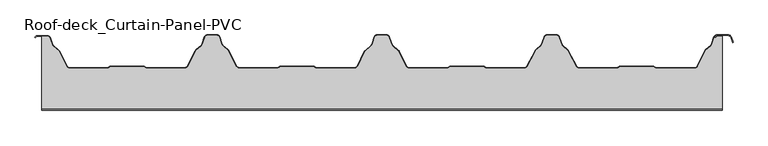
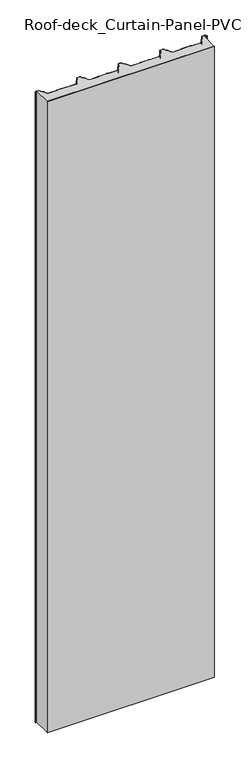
"""IFC4 building model written with IfcOpenShell, lengths in millimetres: plate geometry, Roof-deck_Curtain-Panel-PVC : ACH_Roof deck_MW_60 mm."""

from ifc_helpers import new_model, si_unit, point, frame_2d, origin, origin_with_axes, place, context, project, spatial, polyline, circle_curve, trimmed, segment, composite_curve, outline, extrude, source, transform, mapped, element, save


def roof_deck_curtain_panel_pvc_c78e96fc(model_context):
    return source(origin(), model_context, "Body", "SweptSolid", [
        extrude(outline(composite_curve([segment(polyline([(-349.0135941, -47.2718753), (-348.3934384, -47.892031)]), True, "CONTINUOUS"), segment(trimmed(circle_curve(frame_2d((-346.2014073, -45.7)), 3.1), [point((-348.3934384, -47.892031))], [point((-346.2014073, -48.8))], True, "CARTESIAN"), True, "CONTINUOUS"), segment(polyline([(-346.2014073, -48.8), (-289.4061861, -48.8)]), True, "CONTINUOUS"), segment(trimmed(circle_curve(frame_2d((-289.4061861, -44.5)), 4.3), [point((-289.4061861, -48.8))], [point((-285.5884085, -46.4785284))], True, "CARTESIAN"), True, "CONTINUOUS"), segment(polyline([(-285.5884085, -46.4785284), (-273.6825876, -23.505001)]), True, "CONTINUOUS"), segment(trimmed(circle_curve(frame_2d((-271.1078074, -24.8393573)), 2.9), [point((-273.6825876, -23.505001))], [point((-273.017236, -22.6566795))], False, "CARTESIAN"), True, "CONTINUOUS"), segment(polyline([(-273.017236, -22.6566795), (-265.2497907, -15.8616403)]), True, "CONTINUOUS"), segment(trimmed(circle_curve(frame_2d((-267.290904, -13.5284329)), 3.1), [point((-265.2497907, -15.8616403))], [point((-264.3739053, -14.5777749))], True, "CARTESIAN"), True, "CONTINUOUS"), segment(polyline([(-264.3739053, -14.5777749), (-260.2266586, -3.0491088)]), True, "CONTINUOUS"), segment(trimmed(circle_curve(frame_2d((-257.0273697, -4.2)), 3.4), [point((-260.2266586, -3.0491088))], [point((-257.0273697, -0.8))], False, "CARTESIAN"), True, "CONTINUOUS"), segment(polyline([(-257.0273697, -0.8), (-242.6920972, -0.8)]), True, "CONTINUOUS"), segment(trimmed(circle_curve(frame_2d((-242.6920972, -4.2)), 3.4), [point((-242.6920972, -0.8))], [point((-239.4928083, -3.0491088))], False, "CARTESIAN"), True, "CONTINUOUS"), segment(polyline([(-239.4928083, -3.0491088), (-235.3455616, -14.5777749)]), True, "CONTINUOUS"), segment(trimmed(circle_curve(frame_2d((-232.4285629, -13.5284329)), 3.1), [point((-235.3455616, -14.5777749))], [point((-234.4696761, -15.8616403))], True, "CARTESIAN"), True, "CONTINUOUS"), segment(polyline([(-234.4696761, -15.8616403), (-226.7022309, -22.6566795)]), True, "CONTINUOUS"), segment(trimmed(circle_curve(frame_2d((-228.6116595, -24.8393573)), 2.9), [point((-226.7022309, -22.6566795))], [point((-226.0368792, -23.505001))], False, "CARTESIAN"), True, "CONTINUOUS"), segment(polyline([(-226.0368792, -23.505001), (-214.1310583, -46.4785284)]), True, "CONTINUOUS"), segment(trimmed(circle_curve(frame_2d((-210.3132808, -44.5)), 4.3), [point((-214.1310583, -46.4785284))], [point((-210.3132808, -48.8))], True, "CARTESIAN"), True, "CONTINUOUS"), segment(polyline([(-210.3132808, -48.8), (-153.5333867, -48.8)]), True, "CONTINUOUS"), segment(trimmed(circle_curve(frame_2d((-153.5333867, -45.7)), 3.1), [point((-153.5333867, -48.8))], [point((-151.3413557, -47.892031))], True, "CARTESIAN"), True, "CONTINUOUS"), segment(polyline([(-151.3413557, -47.892031), (-150.7212, -47.2718753)]), True, "CONTINUOUS"), segment(trimmed(circle_curve(frame_2d((-149.0481053, -50.0020238)), 3.2020238), [point((-150.7212, -47.2718753))], [point((-149.0481053, -46.8))], False, "CARTESIAN"), True, "CONTINUOUS"), segment(polyline([(-149.0481053, -46.8), (-101.2020159, -46.8)]), True, "CONTINUOUS"), segment(trimmed(circle_curve(frame_2d((-101.2020159, -50.0020238)), 3.2020238), [point((-101.2020159, -46.8))], [point((-99.5289212, -47.2718753))], False, "CARTESIAN"), True, "CONTINUOUS"), segment(polyline([(-99.5289212, -47.2718753), (-98.9087655, -47.892031)]), True, "CONTINUOUS"), segment(trimmed(circle_curve(frame_2d((-96.7167345, -45.7)), 3.1), [point((-98.9087655, -47.892031))], [point((-96.7167345, -48.8))], True, "CARTESIAN"), True, "CONTINUOUS"), segment(polyline([(-96.7167345, -48.8), (-39.9215133, -48.8)]), True, "CONTINUOUS"), segment(trimmed(circle_curve(frame_2d((-39.9215133, -44.5)), 4.3), [point((-39.9215133, -48.8))], [point((-36.0707148, -46.4134657))], True, "CARTESIAN"), True, "CONTINUOUS"), segment(polyline([(-36.0707148, -46.4134657), (-25.2060392, -24.5485969)]), True, "CONTINUOUS"), segment(trimmed(circle_curve(frame_2d((-22.6089891, -25.8390738)), 2.9), [point((-25.2060392, -24.5485969))], [point((-24.5354625, -23.6714252))], False, "CARTESIAN"), True, "CONTINUOUS"), segment(polyline([(-24.5354625, -23.6714252), (-15.7323582, -15.8477646)]), True, "CONTINUOUS"), segment(trimmed(circle_curve(frame_2d((-17.7916919, -13.530623)), 3.1), [point((-15.7323582, -15.8477646))], [point((-14.8746932, -14.579965))], True, "CARTESIAN"), True, "CONTINUOUS"), segment(polyline([(-14.8746932, -14.579965), (-10.7266586, -3.0491088)]), True, "CONTINUOUS"), segment(trimmed(circle_curve(frame_2d((-7.5273697, -4.2)), 3.4), [point((-10.7266586, -3.0491088))], [point((-7.5273697, -0.8))], False, "CARTESIAN"), True, "CONTINUOUS"), segment(polyline([(-7.5273697, -0.8), (6.8079028, -0.8)]), True, "CONTINUOUS"), segment(trimmed(circle_curve(frame_2d((6.8079028, -4.2)), 3.4), [point((6.8079028, -0.8))], [point((10.0071917, -3.0491088))], False, "CARTESIAN"), True, "CONTINUOUS"), segment(polyline([(10.0071917, -3.0491088), (14.1552263, -14.579965)]), True, "CONTINUOUS"), segment(trimmed(circle_curve(frame_2d((17.072225, -13.530623)), 3.1), [point((14.1552263, -14.579965))], [point((15.0128913, -15.8477646))], True, "CARTESIAN"), True, "CONTINUOUS"), segment(polyline([(15.0128913, -15.8477646), (23.8159956, -23.6714252)]), True, "CONTINUOUS"), segment(trimmed(circle_curve(frame_2d((21.8895222, -25.8390738)), 2.9), [point((23.8159956, -23.6714252))], [point((24.4865724, -24.5485969))], False, "CARTESIAN"), True, "CONTINUOUS"), segment(polyline([(24.4865724, -24.5485969), (35.3512479, -46.4134657)]), True, "CONTINUOUS"), segment(trimmed(circle_curve(frame_2d((39.2020464, -44.5)), 4.3), [point((35.3512479, -46.4134657))], [point((39.2020464, -48.8))], True, "CARTESIAN"), True, "CONTINUOUS"), segment(polyline([(39.2020464, -48.8), (95.9819404, -48.8)]), True, "CONTINUOUS"), segment(trimmed(circle_curve(frame_2d((95.9819404, -45.7)), 3.1), [point((95.9819404, -48.8))], [point((98.1739715, -47.892031))], True, "CARTESIAN"), True, "CONTINUOUS"), segment(polyline([(98.1739715, -47.892031), (98.7941272, -47.2718753)]), True, "CONTINUOUS"), segment(trimmed(circle_curve(frame_2d((100.4672218, -50.0020238)), 3.2020238), [point((98.7941272, -47.2718753))], [point((100.4672218, -46.8))], False, "CARTESIAN"), True, "CONTINUOUS"), segment(polyline([(100.4672218, -46.8), (148.3133113, -46.8)]), True, "CONTINUOUS"), segment(trimmed(circle_curve(frame_2d((148.3133113, -50.0020238)), 3.2020238), [point((148.3133113, -46.8))], [point((149.9864059, -47.2718753))], False, "CARTESIAN"), True, "CONTINUOUS"), segment(polyline([(149.9864059, -47.2718753), (150.6065616, -47.892031)]), True, "CONTINUOUS"), segment(trimmed(circle_curve(frame_2d((152.7985927, -45.7)), 3.1), [point((150.6065616, -47.892031))], [point((152.7985927, -48.8))], True, "CARTESIAN"), True, "CONTINUOUS"), segment(polyline([(152.7985927, -48.8), (209.5938139, -48.8)]), True, "CONTINUOUS"), segment(trimmed(circle_curve(frame_2d((209.5938139, -44.5)), 4.3), [point((209.5938139, -48.8))], [point((213.4115915, -46.4785284))], True, "CARTESIAN"), True, "CONTINUOUS"), segment(polyline([(213.4115915, -46.4785284), (225.3174124, -23.505001)]), True, "CONTINUOUS"), segment(trimmed(circle_curve(frame_2d((227.8921926, -24.8393573)), 2.9), [point((225.3174124, -23.505001))], [point((225.982764, -22.6566795))], False, "CARTESIAN"), True, "CONTINUOUS"), segment(polyline([(225.982764, -22.6566795), (233.7502093, -15.8616403)]), True, "CONTINUOUS"), segment(trimmed(circle_curve(frame_2d((231.709096, -13.5284329)), 3.1), [point((233.7502093, -15.8616403))], [point((234.6260947, -14.5777749))], True, "CARTESIAN"), True, "CONTINUOUS"), segment(polyline([(234.6260947, -14.5777749), (238.7733414, -3.0491088)]), True, "CONTINUOUS"), segment(trimmed(circle_curve(frame_2d((241.9726303, -4.2)), 3.4), [point((238.7733414, -3.0491088))], [point((241.9726303, -0.8))], False, "CARTESIAN"), True, "CONTINUOUS"), segment(polyline([(241.9726303, -0.8), (256.3079028, -0.8)]), True, "CONTINUOUS"), segment(trimmed(circle_curve(frame_2d((256.3079028, -4.2)), 3.4), [point((256.3079028, -0.8))], [point((259.5071917, -3.0491088))], False, "CARTESIAN"), True, "CONTINUOUS"), segment(polyline([(259.5071917, -3.0491088), (263.6544384, -14.5777749)]), True, "CONTINUOUS"), segment(trimmed(circle_curve(frame_2d((266.5714371, -13.5284329)), 3.1), [point((263.6544384, -14.5777749))], [point((264.5303239, -15.8616403))], True, "CARTESIAN"), True, "CONTINUOUS"), segment(polyline([(264.5303239, -15.8616403), (272.2977691, -22.6566795)]), True, "CONTINUOUS"), segment(trimmed(circle_curve(frame_2d((270.3883405, -24.8393573)), 2.9), [point((272.2977691, -22.6566795))], [point((272.9631208, -23.505001))], False, "CARTESIAN"), True, "CONTINUOUS"), segment(polyline([(272.9631208, -23.505001), (284.8689417, -46.4785284)]), True, "CONTINUOUS"), segment(trimmed(circle_curve(frame_2d((288.6867192, -44.5)), 4.3), [point((284.8689417, -46.4785284))], [point((288.6867192, -48.8))], True, "CARTESIAN"), True, "CONTINUOUS"), segment(polyline([(288.6867192, -48.8), (345.4666133, -48.8)]), True, "CONTINUOUS"), segment(trimmed(circle_curve(frame_2d((345.4666133, -45.7)), 3.1), [point((345.4666133, -48.8))], [point((347.6586443, -47.892031))], True, "CARTESIAN"), True, "CONTINUOUS"), segment(polyline([(347.6586443, -47.892031), (348.2788, -47.2718753)]), True, "CONTINUOUS"), segment(trimmed(circle_curve(frame_2d((349.9518947, -50.0020238)), 3.2020238), [point((348.2788, -47.2718753))], [point((349.9518947, -46.8))], False, "CARTESIAN"), True, "CONTINUOUS"), segment(polyline([(349.9518947, -46.8), (397.7979841, -46.8)]), True, "CONTINUOUS"), segment(trimmed(circle_curve(frame_2d((397.7979841, -50.0020238)), 3.2020238), [point((397.7979841, -46.8))], [point((399.4710788, -47.2718753))], False, "CARTESIAN"), True, "CONTINUOUS"), segment(polyline([(399.4710788, -47.2718753), (400.0912345, -47.892031)]), True, "CONTINUOUS"), segment(trimmed(circle_curve(frame_2d((402.2832655, -45.7)), 3.1), [point((400.0912345, -47.892031))], [point((402.2832655, -48.8))], True, "CARTESIAN"), True, "CONTINUOUS"), segment(polyline([(402.2832655, -48.8), (460.084234, -48.8)]), True, "CONTINUOUS"), segment(trimmed(circle_curve(frame_2d((460.084234, -44.5)), 4.3), [point((460.084234, -48.8))], [point((463.9685573, -46.3444599))], True, "CARTESIAN"), True, "CONTINUOUS"), segment(polyline([(463.9685573, -46.3444599), (474.7696963, -23.5979005)]), True, "CONTINUOUS"), segment(trimmed(circle_curve(frame_2d((477.3893563, -24.8418385)), 2.9), [point((474.7696963, -23.5979005))], [point((475.4799277, -22.6591607))], False, "CARTESIAN"), True, "CONTINUOUS"), segment(polyline([(475.4799277, -22.6591607), (483.2502093, -15.8616403)]), True, "CONTINUOUS"), segment(trimmed(circle_curve(frame_2d((481.209096, -13.5284329)), 3.1), [point((483.2502093, -15.8616403))], [point((484.1260947, -14.5777749))], True, "CARTESIAN"), True, "CONTINUOUS"), segment(polyline([(484.1260947, -14.5777749), (488.2177168, -3.2037362), (490.5677139, -4.0491088)]), True, "CONTINUOUS"), segment(trimmed(circle_curve(frame_2d((493.7670027, -5.2)), 3.4), [point((490.5677139, -4.0491088))], [point((493.7670027, -1.8))], False, "CARTESIAN"), True, "CONTINUOUS"), segment(polyline([(493.7670027, -1.8), (500.0, -1.8), (500.0, -108.8), (-500.0, -108.8), (-500.0, -1.8), (-491.8323638, -1.8)]), True, "CONTINUOUS"), segment(trimmed(circle_curve(frame_2d((-491.8323638, -5.2)), 3.4), [point((-491.8323638, -1.8))], [point((-488.6330749, -4.0491088))], False, "CARTESIAN"), True, "CONTINUOUS"), segment(polyline([(-488.6330749, -4.0491088), (-484.8455616, -14.5777749)]), True, "CONTINUOUS"), segment(trimmed(circle_curve(frame_2d((-481.9285629, -13.5284329)), 3.1), [point((-484.8455616, -14.5777749))], [point((-483.9696761, -15.8616403))], True, "CARTESIAN"), True, "CONTINUOUS"), segment(polyline([(-483.9696761, -15.8616403), (-475.3099327, -23.4372709)]), True, "CONTINUOUS"), segment(trimmed(circle_curve(frame_2d((-477.2193612, -25.6199488)), 2.9), [point((-475.3099327, -23.4372709))], [point((-474.6223111, -24.3294719))], False, "CARTESIAN"), True, "CONTINUOUS"), segment(polyline([(-474.6223111, -24.3294719), (-463.6487521, -46.4134657)]), True, "CONTINUOUS"), segment(trimmed(circle_curve(frame_2d((-459.7979536, -44.5)), 4.3), [point((-463.6487521, -46.4134657))], [point((-459.7979536, -48.8))], True, "CARTESIAN"), True, "CONTINUOUS"), segment(polyline([(-459.7979536, -48.8), (-403.0180596, -48.8)]), True, "CONTINUOUS"), segment(trimmed(circle_curve(frame_2d((-403.0180596, -45.7)), 3.1), [point((-403.0180596, -48.8))], [point((-400.8260285, -47.892031))], True, "CARTESIAN"), True, "CONTINUOUS"), segment(polyline([(-400.8260285, -47.892031), (-400.2058728, -47.2718753)]), True, "CONTINUOUS"), segment(trimmed(circle_curve(frame_2d((-398.5327782, -50.0020238)), 3.2020238), [point((-400.2058728, -47.2718753))], [point((-398.5327782, -46.8))], False, "CARTESIAN"), True, "CONTINUOUS"), segment(polyline([(-398.5327782, -46.8), (-350.6866887, -46.8)]), True, "CONTINUOUS"), segment(trimmed(circle_curve(frame_2d((-350.6866887, -50.0020238)), 3.2020238), [point((-350.6866887, -46.8))], [point((-349.0135941, -47.2718753))], False, "CARTESIAN"), True, "CONTINUOUS")], self_intersect=False)), origin_with_axes(), (0.0, 0.0, 1.0), 4000.0),
        extrude(outline(composite_curve([segment(polyline([(-506.1676362, -1.0), (-491.8323638, -1.0)]), True, "CONTINUOUS"), segment(trimmed(circle_curve(frame_2d((-491.8323638, -5.2)), 4.2), [point((-491.8323638, -1.0))], [point((-487.880301, -3.7783109))], False, "CARTESIAN"), True, "CONTINUOUS"), segment(polyline([(-487.880301, -3.7783109), (-484.0927877, -14.3069769)]), True, "CONTINUOUS"), segment(trimmed(circle_curve(frame_2d((-481.9285629, -13.5284329)), 2.3), [point((-484.0927877, -14.3069769))], [point((-483.4429372, -15.2595222))], True, "CARTESIAN"), True, "CONTINUOUS"), segment(polyline([(-483.4429372, -15.2595222), (-474.7831938, -22.8351529)]), True, "CONTINUOUS"), segment(trimmed(circle_curve(frame_2d((-477.2193612, -25.6199488)), 3.7), [point((-474.7831938, -22.8351529))], [point((-473.9058834, -23.9734783))], False, "CARTESIAN"), True, "CONTINUOUS"), segment(polyline([(-473.9058834, -23.9734783), (-462.9323245, -46.0574721)]), True, "CONTINUOUS"), segment(trimmed(circle_curve(frame_2d((-459.7979536, -44.5)), 3.5), [point((-462.9323245, -46.0574721))], [point((-459.7979536, -48.0))], True, "CARTESIAN"), True, "CONTINUOUS"), segment(polyline([(-459.7979536, -48.0), (-403.0180596, -48.0)]), True, "CONTINUOUS"), segment(trimmed(circle_curve(frame_2d((-403.0180596, -45.7)), 2.3), [point((-403.0180596, -48.0))], [point((-401.391714, -47.3263456))], True, "CARTESIAN"), True, "CONTINUOUS"), segment(polyline([(-401.391714, -47.3263456), (-400.7083848, -46.6430165)]), True, "CONTINUOUS"), segment(trimmed(circle_curve(frame_2d((-398.5327782, -50.0020238)), 4.0020238), [point((-400.7083848, -46.6430165))], [point((-398.5327782, -46.0))], False, "CARTESIAN"), True, "CONTINUOUS"), segment(polyline([(-398.5327782, -46.0), (-350.6866887, -46.0)]), True, "CONTINUOUS"), segment(trimmed(circle_curve(frame_2d((-350.6866887, -50.0020238)), 4.0020238), [point((-350.6866887, -46.0))], [point((-348.511082, -46.6430165))], False, "CARTESIAN"), True, "CONTINUOUS"), segment(polyline([(-348.511082, -46.6430165), (-347.8277529, -47.3263456)]), True, "CONTINUOUS"), segment(trimmed(circle_curve(frame_2d((-346.2014073, -45.7)), 2.3), [point((-347.8277529, -47.3263456))], [point((-346.2014073, -48.0))], True, "CARTESIAN"), True, "CONTINUOUS"), segment(polyline([(-346.2014073, -48.0), (-289.4061861, -48.0)]), True, "CONTINUOUS"), segment(trimmed(circle_curve(frame_2d((-289.4061861, -44.5)), 3.5), [point((-289.4061861, -48.0))], [point((-286.2986927, -46.1104301))], True, "CARTESIAN"), True, "CONTINUOUS"), segment(polyline([(-286.2986927, -46.1104301), (-274.3928718, -23.1369027)]), True, "CONTINUOUS"), segment(trimmed(circle_curve(frame_2d((-271.1078074, -24.8393573)), 3.7), [point((-274.3928718, -23.1369027))], [point((-273.5439749, -22.0545614))], False, "CARTESIAN"), True, "CONTINUOUS"), segment(polyline([(-273.5439749, -22.0545614), (-265.7765297, -15.2595222)]), True, "CONTINUOUS"), segment(trimmed(circle_curve(frame_2d((-267.290904, -13.5284329)), 2.3), [point((-265.7765297, -15.2595222))], [point((-265.1266792, -14.3069769))], True, "CARTESIAN"), True, "CONTINUOUS"), segment(polyline([(-265.1266792, -14.3069769), (-260.9794324, -2.7783109)]), True, "CONTINUOUS"), segment(trimmed(circle_curve(frame_2d((-257.0273697, -4.2)), 4.2), [point((-260.9794324, -2.7783109))], [point((-257.0273697, 0.0))], False, "CARTESIAN"), True, "CONTINUOUS"), segment(polyline([(-257.0273697, 0.0), (-242.6920972, 0.0)]), True, "CONTINUOUS"), segment(trimmed(circle_curve(frame_2d((-242.6920972, -4.2)), 4.2), [point((-242.6920972, 0.0))], [point((-238.7400345, -2.7783109))], False, "CARTESIAN"), True, "CONTINUOUS"), segment(polyline([(-238.7400345, -2.7783109), (-234.5927877, -14.3069769)]), True, "CONTINUOUS"), segment(trimmed(circle_curve(frame_2d((-232.4285629, -13.5284329)), 2.3), [point((-234.5927877, -14.3069769))], [point((-233.9429372, -15.2595222))], True, "CARTESIAN"), True, "CONTINUOUS"), segment(polyline([(-233.9429372, -15.2595222), (-226.175492, -22.0545614)]), True, "CONTINUOUS"), segment(trimmed(circle_curve(frame_2d((-228.6116595, -24.8393573)), 3.7), [point((-226.175492, -22.0545614))], [point((-225.326595, -23.1369027))], False, "CARTESIAN"), True, "CONTINUOUS"), segment(polyline([(-225.326595, -23.1369027), (-213.4207742, -46.1104301)]), True, "CONTINUOUS"), segment(trimmed(circle_curve(frame_2d((-210.3132808, -44.5)), 3.5), [point((-213.4207742, -46.1104301))], [point((-210.3132808, -48.0))], True, "CARTESIAN"), True, "CONTINUOUS"), segment(polyline([(-210.3132808, -48.0), (-153.5333867, -48.0)]), True, "CONTINUOUS"), segment(trimmed(circle_curve(frame_2d((-153.5333867, -45.7)), 2.3), [point((-153.5333867, -48.0))], [point((-151.9070411, -47.3263456))], True, "CARTESIAN"), True, "CONTINUOUS"), segment(polyline([(-151.9070411, -47.3263456), (-151.223712, -46.6430165)]), True, "CONTINUOUS"), segment(trimmed(circle_curve(frame_2d((-149.0481053, -50.0020238)), 4.0020238), [point((-151.223712, -46.6430165))], [point((-149.0481053, -46.0))], False, "CARTESIAN"), True, "CONTINUOUS"), segment(polyline([(-149.0481053, -46.0), (-101.2020159, -46.0)]), True, "CONTINUOUS"), segment(trimmed(circle_curve(frame_2d((-101.2020159, -50.0020238)), 4.0020238), [point((-101.2020159, -46.0))], [point((-99.0264092, -46.6430165))], False, "CARTESIAN"), True, "CONTINUOUS"), segment(polyline([(-99.0264092, -46.6430165), (-98.3430801, -47.3263456)]), True, "CONTINUOUS"), segment(trimmed(circle_curve(frame_2d((-96.7167345, -45.7)), 2.3), [point((-98.3430801, -47.3263456))], [point((-96.7167345, -48.0))], True, "CARTESIAN"), True, "CONTINUOUS"), segment(polyline([(-96.7167345, -48.0), (-39.9215133, -48.0)]), True, "CONTINUOUS"), segment(trimmed(circle_curve(frame_2d((-39.9215133, -44.5)), 3.5), [point((-39.9215133, -48.0))], [point((-36.7871424, -46.0574721))], True, "CARTESIAN"), True, "CONTINUOUS"), segment(polyline([(-36.7871424, -46.0574721), (-25.9224669, -24.1926033)]), True, "CONTINUOUS"), segment(trimmed(circle_curve(frame_2d((-22.6089891, -25.8390738)), 3.7), [point((-25.9224669, -24.1926033))], [point((-25.0669035, -23.0734532))], False, "CARTESIAN"), True, "CONTINUOUS"), segment(polyline([(-25.0669035, -23.0734532), (-16.2637992, -15.2497926)]), True, "CONTINUOUS"), segment(trimmed(circle_curve(frame_2d((-17.7916919, -13.530623)), 2.3), [point((-16.2637992, -15.2497926))], [point((-15.627467, -14.3091671))], True, "CARTESIAN"), True, "CONTINUOUS"), segment(polyline([(-15.627467, -14.3091671), (-11.4794324, -2.7783109)]), True, "CONTINUOUS"), segment(trimmed(circle_curve(frame_2d((-7.5273697, -4.2)), 4.2), [point((-11.4794324, -2.7783109))], [point((-7.5273697, 0.0))], False, "CARTESIAN"), True, "CONTINUOUS"), segment(polyline([(-7.5273697, 0.0), (6.8079028, 0.0)]), True, "CONTINUOUS"), segment(trimmed(circle_curve(frame_2d((6.8079028, -4.2)), 4.2), [point((6.8079028, 0.0))], [point((10.7599655, -2.7783109))], False, "CARTESIAN"), True, "CONTINUOUS"), segment(polyline([(10.7599655, -2.7783109), (14.9080002, -14.3091671)]), True, "CONTINUOUS"), segment(trimmed(circle_curve(frame_2d((17.072225, -13.530623)), 2.3), [point((14.9080002, -14.3091671))], [point((15.5443323, -15.2497926))], True, "CARTESIAN"), True, "CONTINUOUS"), segment(polyline([(15.5443323, -15.2497926), (24.3474366, -23.0734532)]), True, "CONTINUOUS"), segment(trimmed(circle_curve(frame_2d((21.8895222, -25.8390738)), 3.7), [point((24.3474366, -23.0734532))], [point((25.203, -24.1926033))], False, "CARTESIAN"), True, "CONTINUOUS"), segment(polyline([(25.203, -24.1926033), (36.0676755, -46.0574721)]), True, "CONTINUOUS"), segment(trimmed(circle_curve(frame_2d((39.2020464, -44.5)), 3.5), [point((36.0676755, -46.0574721))], [point((39.2020464, -48.0))], True, "CARTESIAN"), True, "CONTINUOUS"), segment(polyline([(39.2020464, -48.0), (95.9819404, -48.0)]), True, "CONTINUOUS"), segment(trimmed(circle_curve(frame_2d((95.9819404, -45.7)), 2.3), [point((95.9819404, -48.0))], [point((97.608286, -47.3263456))], True, "CARTESIAN"), True, "CONTINUOUS"), segment(polyline([(97.608286, -47.3263456), (98.2916152, -46.6430165)]), True, "CONTINUOUS"), segment(trimmed(circle_curve(frame_2d((100.4672218, -50.0020238)), 4.0020238), [point((98.2916152, -46.6430165))], [point((100.4672218, -46.0))], False, "CARTESIAN"), True, "CONTINUOUS"), segment(polyline([(100.4672218, -46.0), (148.3133113, -46.0)]), True, "CONTINUOUS"), segment(trimmed(circle_curve(frame_2d((148.3133113, -50.0020238)), 4.0020238), [point((148.3133113, -46.0))], [point((150.488918, -46.6430165))], False, "CARTESIAN"), True, "CONTINUOUS"), segment(polyline([(150.488918, -46.6430165), (151.1722471, -47.3263456)]), True, "CONTINUOUS"), segment(trimmed(circle_curve(frame_2d((152.7985927, -45.7)), 2.3), [point((151.1722471, -47.3263456))], [point((152.7985927, -48.0))], True, "CARTESIAN"), True, "CONTINUOUS"), segment(polyline([(152.7985927, -48.0), (209.5938139, -48.0)]), True, "CONTINUOUS"), segment(trimmed(circle_curve(frame_2d((209.5938139, -44.5)), 3.5), [point((209.5938139, -48.0))], [point((212.7013073, -46.1104301))], True, "CARTESIAN"), True, "CONTINUOUS"), segment(polyline([(212.7013073, -46.1104301), (224.6071282, -23.1369027)]), True, "CONTINUOUS"), segment(trimmed(circle_curve(frame_2d((227.8921926, -24.8393573)), 3.7), [point((224.6071282, -23.1369027))], [point((225.4560251, -22.0545614))], False, "CARTESIAN"), True, "CONTINUOUS"), segment(polyline([(225.4560251, -22.0545614), (233.2234703, -15.2595222)]), True, "CONTINUOUS"), segment(trimmed(circle_curve(frame_2d((231.709096, -13.5284329)), 2.3), [point((233.2234703, -15.2595222))], [point((233.8733208, -14.3069769))], True, "CARTESIAN"), True, "CONTINUOUS"), segment(polyline([(233.8733208, -14.3069769), (238.0205676, -2.7783109)]), True, "CONTINUOUS"), segment(trimmed(circle_curve(frame_2d((241.9726303, -4.2)), 4.2), [point((238.0205676, -2.7783109))], [point((241.9726303, 0.0))], False, "CARTESIAN"), True, "CONTINUOUS"), segment(polyline([(241.9726303, 0.0), (256.3079028, 0.0)]), True, "CONTINUOUS"), segment(trimmed(circle_curve(frame_2d((256.3079028, -4.2)), 4.2), [point((256.3079028, 0.0))], [point((260.2599655, -2.7783109))], False, "CARTESIAN"), True, "CONTINUOUS"), segment(polyline([(260.2599655, -2.7783109), (264.4072123, -14.3069769)]), True, "CONTINUOUS"), segment(trimmed(circle_curve(frame_2d((266.5714371, -13.5284329)), 2.3), [point((264.4072123, -14.3069769))], [point((265.0570628, -15.2595222))], True, "CARTESIAN"), True, "CONTINUOUS"), segment(polyline([(265.0570628, -15.2595222), (272.824508, -22.0545614)]), True, "CONTINUOUS"), segment(trimmed(circle_curve(frame_2d((270.3883405, -24.8393573)), 3.7), [point((272.824508, -22.0545614))], [point((273.673405, -23.1369027))], False, "CARTESIAN"), True, "CONTINUOUS"), segment(polyline([(273.673405, -23.1369027), (285.5792258, -46.1104301)]), True, "CONTINUOUS"), segment(trimmed(circle_curve(frame_2d((288.6867192, -44.5)), 3.5), [point((285.5792258, -46.1104301))], [point((288.6867192, -48.0))], True, "CARTESIAN"), True, "CONTINUOUS"), segment(polyline([(288.6867192, -48.0), (345.4666133, -48.0)]), True, "CONTINUOUS"), segment(trimmed(circle_curve(frame_2d((345.4666133, -45.7)), 2.3), [point((345.4666133, -48.0))], [point((347.0929589, -47.3263456))], True, "CARTESIAN"), True, "CONTINUOUS"), segment(polyline([(347.0929589, -47.3263456), (347.776288, -46.6430165)]), True, "CONTINUOUS"), segment(trimmed(circle_curve(frame_2d((349.9518947, -50.0020238)), 4.0020238), [point((347.776288, -46.6430165))], [point((349.9518947, -46.0))], False, "CARTESIAN"), True, "CONTINUOUS"), segment(polyline([(349.9518947, -46.0), (397.7979841, -46.0)]), True, "CONTINUOUS"), segment(trimmed(circle_curve(frame_2d((397.7979841, -50.0020238)), 4.0020238), [point((397.7979841, -46.0))], [point((399.9735908, -46.6430165))], False, "CARTESIAN"), True, "CONTINUOUS"), segment(polyline([(399.9735908, -46.6430165), (400.6569199, -47.3263456)]), True, "CONTINUOUS"), segment(trimmed(circle_curve(frame_2d((402.2832655, -45.7)), 2.3), [point((400.6569199, -47.3263456))], [point((402.2832655, -48.0))], True, "CARTESIAN"), True, "CONTINUOUS"), segment(polyline([(402.2832655, -48.0), (460.084234, -48.0)]), True, "CONTINUOUS"), segment(trimmed(circle_curve(frame_2d((460.084234, -44.5)), 3.5), [point((460.084234, -48.0))], [point((463.2458925, -46.0013046))], True, "CARTESIAN"), True, "CONTINUOUS"), segment(polyline([(463.2458925, -46.0013046), (474.0470315, -23.2547451)]), True, "CONTINUOUS"), segment(trimmed(circle_curve(frame_2d((477.3893563, -24.8418385)), 3.7), [point((474.0470315, -23.2547451))], [point((474.9531888, -22.0570426))], False, "CARTESIAN"), True, "CONTINUOUS"), segment(polyline([(474.9531888, -22.0570426), (482.7234703, -15.2595222)]), True, "CONTINUOUS"), segment(trimmed(circle_curve(frame_2d((481.209096, -13.5284329)), 2.3), [point((482.7234703, -15.2595222))], [point((483.3733208, -14.3069769))], True, "CARTESIAN"), True, "CONTINUOUS"), segment(polyline([(483.3733208, -14.3069769), (487.5205676, -2.7783109)]), True, "CONTINUOUS"), segment(trimmed(circle_curve(frame_2d((491.4726303, -4.2)), 4.2), [point((487.5205676, -2.7783109))], [point((491.4726303, 0.0))], False, "CARTESIAN"), True, "CONTINUOUS"), segment(polyline([(491.4726303, 0.0), (508.6580917, 0.0)]), True, "CONTINUOUS"), segment(trimmed(circle_curve(frame_2d((508.6580917, -4.2)), 4.2), [point((508.6580917, 0.0))], [point((512.6101545, -2.7783109))], False, "CARTESIAN"), True, "CONTINUOUS"), segment(polyline([(512.6101545, -2.7783109), (515.5925551, -11.0688956), (514.8397812, -11.3396935), (511.8573806, -3.0491088)]), True, "CONTINUOUS"), segment(trimmed(circle_curve(frame_2d((508.6580917, -4.2)), 3.4), [point((511.8573806, -3.0491088))], [point((508.6580917, -0.8))], True, "CARTESIAN"), True, "CONTINUOUS"), segment(polyline([(508.6580917, -0.8), (491.4726303, -0.8)]), True, "CONTINUOUS"), segment(trimmed(circle_curve(frame_2d((491.4726303, -4.2)), 3.4), [point((491.4726303, -0.8))], [point((488.2733414, -3.0491088))], True, "CARTESIAN"), True, "CONTINUOUS"), segment(polyline([(488.2733414, -3.0491088), (484.1260947, -14.5777749)]), True, "CONTINUOUS"), segment(trimmed(circle_curve(frame_2d((481.209096, -13.5284329)), 3.1), [point((484.1260947, -14.5777749))], [point((483.2502093, -15.8616403))], False, "CARTESIAN"), True, "CONTINUOUS"), segment(polyline([(483.2502093, -15.8616403), (475.4799277, -22.6591607)]), True, "CONTINUOUS"), segment(trimmed(circle_curve(frame_2d((477.3893563, -24.8418385)), 2.9), [point((475.4799277, -22.6591607))], [point((474.7696963, -23.5979005))], True, "CARTESIAN"), True, "CONTINUOUS"), segment(polyline([(474.7696963, -23.5979005), (463.9685573, -46.3444599)]), True, "CONTINUOUS"), segment(trimmed(circle_curve(frame_2d((460.084234, -44.5)), 4.3), [point((463.9685573, -46.3444599))], [point((460.084234, -48.8))], False, "CARTESIAN"), True, "CONTINUOUS"), segment(polyline([(460.084234, -48.8), (402.2832655, -48.8)]), True, "CONTINUOUS"), segment(trimmed(circle_curve(frame_2d((402.2832655, -45.7)), 3.1), [point((402.2832655, -48.8))], [point((400.0912345, -47.892031))], False, "CARTESIAN"), True, "CONTINUOUS"), segment(polyline([(400.0912345, -47.892031), (399.4710788, -47.2718753)]), True, "CONTINUOUS"), segment(trimmed(circle_curve(frame_2d((397.7979841, -50.0020238)), 3.2020238), [point((399.4710788, -47.2718753))], [point((397.7979841, -46.8))], True, "CARTESIAN"), True, "CONTINUOUS"), segment(polyline([(397.7979841, -46.8), (349.9518947, -46.8)]), True, "CONTINUOUS"), segment(trimmed(circle_curve(frame_2d((349.9518947, -50.0020238)), 3.2020238), [point((349.9518947, -46.8))], [point((348.2788, -47.2718753))], True, "CARTESIAN"), True, "CONTINUOUS"), segment(polyline([(348.2788, -47.2718753), (347.6586443, -47.892031)]), True, "CONTINUOUS"), segment(trimmed(circle_curve(frame_2d((345.4666133, -45.7)), 3.1), [point((347.6586443, -47.892031))], [point((345.4666133, -48.8))], False, "CARTESIAN"), True, "CONTINUOUS"), segment(polyline([(345.4666133, -48.8), (288.6867192, -48.8)]), True, "CONTINUOUS"), segment(trimmed(circle_curve(frame_2d((288.6867192, -44.5)), 4.3), [point((288.6867192, -48.8))], [point((284.8689417, -46.4785284))], False, "CARTESIAN"), True, "CONTINUOUS"), segment(polyline([(284.8689417, -46.4785284), (272.9631208, -23.505001)]), True, "CONTINUOUS"), segment(trimmed(circle_curve(frame_2d((270.3883405, -24.8393573)), 2.9), [point((272.9631208, -23.505001))], [point((272.2977691, -22.6566795))], True, "CARTESIAN"), True, "CONTINUOUS"), segment(polyline([(272.2977691, -22.6566795), (264.5303239, -15.8616403)]), True, "CONTINUOUS"), segment(trimmed(circle_curve(frame_2d((266.5714371, -13.5284329)), 3.1), [point((264.5303239, -15.8616403))], [point((263.6544384, -14.5777749))], False, "CARTESIAN"), True, "CONTINUOUS"), segment(polyline([(263.6544384, -14.5777749), (259.5071917, -3.0491088)]), True, "CONTINUOUS"), segment(trimmed(circle_curve(frame_2d((256.3079028, -4.2)), 3.4), [point((259.5071917, -3.0491088))], [point((256.3079028, -0.8))], True, "CARTESIAN"), True, "CONTINUOUS"), segment(polyline([(256.3079028, -0.8), (241.9726303, -0.8)]), True, "CONTINUOUS"), segment(trimmed(circle_curve(frame_2d((241.9726303, -4.2)), 3.4), [point((241.9726303, -0.8))], [point((238.7733414, -3.0491088))], True, "CARTESIAN"), True, "CONTINUOUS"), segment(polyline([(238.7733414, -3.0491088), (234.6260947, -14.5777749)]), True, "CONTINUOUS"), segment(trimmed(circle_curve(frame_2d((231.709096, -13.5284329)), 3.1), [point((234.6260947, -14.5777749))], [point((233.7502093, -15.8616403))], False, "CARTESIAN"), True, "CONTINUOUS"), segment(polyline([(233.7502093, -15.8616403), (225.982764, -22.6566795)]), True, "CONTINUOUS"), segment(trimmed(circle_curve(frame_2d((227.8921926, -24.8393573)), 2.9), [point((225.982764, -22.6566795))], [point((225.3174124, -23.505001))], True, "CARTESIAN"), True, "CONTINUOUS"), segment(polyline([(225.3174124, -23.505001), (213.4115915, -46.4785284)]), True, "CONTINUOUS"), segment(trimmed(circle_curve(frame_2d((209.5938139, -44.5)), 4.3), [point((213.4115915, -46.4785284))], [point((209.5938139, -48.8))], False, "CARTESIAN"), True, "CONTINUOUS"), segment(polyline([(209.5938139, -48.8), (152.7985927, -48.8)]), True, "CONTINUOUS"), segment(trimmed(circle_curve(frame_2d((152.7985927, -45.7)), 3.1), [point((152.7985927, -48.8))], [point((150.6065616, -47.892031))], False, "CARTESIAN"), True, "CONTINUOUS"), segment(polyline([(150.6065616, -47.892031), (149.9864059, -47.2718753)]), True, "CONTINUOUS"), segment(trimmed(circle_curve(frame_2d((148.3133113, -50.0020238)), 3.2020238), [point((149.9864059, -47.2718753))], [point((148.3133113, -46.8))], True, "CARTESIAN"), True, "CONTINUOUS"), segment(polyline([(148.3133113, -46.8), (100.4672218, -46.8)]), True, "CONTINUOUS"), segment(trimmed(circle_curve(frame_2d((100.4672218, -50.0020238)), 3.2020238), [point((100.4672218, -46.8))], [point((98.7941272, -47.2718753))], True, "CARTESIAN"), True, "CONTINUOUS"), segment(polyline([(98.7941272, -47.2718753), (98.1739715, -47.892031)]), True, "CONTINUOUS"), segment(trimmed(circle_curve(frame_2d((95.9819404, -45.7)), 3.1), [point((98.1739715, -47.892031))], [point((95.9819404, -48.8))], False, "CARTESIAN"), True, "CONTINUOUS"), segment(polyline([(95.9819404, -48.8), (39.2020464, -48.8)]), True, "CONTINUOUS"), segment(trimmed(circle_curve(frame_2d((39.2020464, -44.5)), 4.3), [point((39.2020464, -48.8))], [point((35.3512479, -46.4134657))], False, "CARTESIAN"), True, "CONTINUOUS"), segment(polyline([(35.3512479, -46.4134657), (24.4865724, -24.5485969)]), True, "CONTINUOUS"), segment(trimmed(circle_curve(frame_2d((21.8895222, -25.8390738)), 2.9), [point((24.4865724, -24.5485969))], [point((23.8159956, -23.6714252))], True, "CARTESIAN"), True, "CONTINUOUS"), segment(polyline([(23.8159956, -23.6714252), (15.0128913, -15.8477646)]), True, "CONTINUOUS"), segment(trimmed(circle_curve(frame_2d((17.072225, -13.530623)), 3.1), [point((15.0128913, -15.8477646))], [point((14.1552263, -14.579965))], False, "CARTESIAN"), True, "CONTINUOUS"), segment(polyline([(14.1552263, -14.579965), (10.0071917, -3.0491088)]), True, "CONTINUOUS"), segment(trimmed(circle_curve(frame_2d((6.8079028, -4.2)), 3.4), [point((10.0071917, -3.0491088))], [point((6.8079028, -0.8))], True, "CARTESIAN"), True, "CONTINUOUS"), segment(polyline([(6.8079028, -0.8), (-7.5273697, -0.8)]), True, "CONTINUOUS"), segment(trimmed(circle_curve(frame_2d((-7.5273697, -4.2)), 3.4), [point((-7.5273697, -0.8))], [point((-10.7266586, -3.0491088))], True, "CARTESIAN"), True, "CONTINUOUS"), segment(polyline([(-10.7266586, -3.0491088), (-14.8746932, -14.579965)]), True, "CONTINUOUS"), segment(trimmed(circle_curve(frame_2d((-17.7916919, -13.530623)), 3.1), [point((-14.8746932, -14.579965))], [point((-15.7323582, -15.8477646))], False, "CARTESIAN"), True, "CONTINUOUS"), segment(polyline([(-15.7323582, -15.8477646), (-24.5354625, -23.6714252)]), True, "CONTINUOUS"), segment(trimmed(circle_curve(frame_2d((-22.6089891, -25.8390738)), 2.9), [point((-24.5354625, -23.6714252))], [point((-25.2060392, -24.5485969))], True, "CARTESIAN"), True, "CONTINUOUS"), segment(polyline([(-25.2060392, -24.5485969), (-36.0707148, -46.4134657)]), True, "CONTINUOUS"), segment(trimmed(circle_curve(frame_2d((-39.9215133, -44.5)), 4.3), [point((-36.0707148, -46.4134657))], [point((-39.9215133, -48.8))], False, "CARTESIAN"), True, "CONTINUOUS"), segment(polyline([(-39.9215133, -48.8), (-96.7167345, -48.8)]), True, "CONTINUOUS"), segment(trimmed(circle_curve(frame_2d((-96.7167345, -45.7)), 3.1), [point((-96.7167345, -48.8))], [point((-98.9087655, -47.892031))], False, "CARTESIAN"), True, "CONTINUOUS"), segment(polyline([(-98.9087655, -47.892031), (-99.5289212, -47.2718753)]), True, "CONTINUOUS"), segment(trimmed(circle_curve(frame_2d((-101.2020159, -50.0020238)), 3.2020238), [point((-99.5289212, -47.2718753))], [point((-101.2020159, -46.8))], True, "CARTESIAN"), True, "CONTINUOUS"), segment(polyline([(-101.2020159, -46.8), (-149.0481053, -46.8)]), True, "CONTINUOUS"), segment(trimmed(circle_curve(frame_2d((-149.0481053, -50.0020238)), 3.2020238), [point((-149.0481053, -46.8))], [point((-150.7212, -47.2718753))], True, "CARTESIAN"), True, "CONTINUOUS"), segment(polyline([(-150.7212, -47.2718753), (-151.3413557, -47.892031)]), True, "CONTINUOUS"), segment(trimmed(circle_curve(frame_2d((-153.5333867, -45.7)), 3.1), [point((-151.3413557, -47.892031))], [point((-153.5333867, -48.8))], False, "CARTESIAN"), True, "CONTINUOUS"), segment(polyline([(-153.5333867, -48.8), (-210.3132808, -48.8)]), True, "CONTINUOUS"), segment(trimmed(circle_curve(frame_2d((-210.3132808, -44.5)), 4.3), [point((-210.3132808, -48.8))], [point((-214.1310583, -46.4785284))], False, "CARTESIAN"), True, "CONTINUOUS"), segment(polyline([(-214.1310583, -46.4785284), (-226.0368792, -23.505001)]), True, "CONTINUOUS"), segment(trimmed(circle_curve(frame_2d((-228.6116595, -24.8393573)), 2.9), [point((-226.0368792, -23.505001))], [point((-226.7022309, -22.6566795))], True, "CARTESIAN"), True, "CONTINUOUS"), segment(polyline([(-226.7022309, -22.6566795), (-234.4696761, -15.8616403)]), True, "CONTINUOUS"), segment(trimmed(circle_curve(frame_2d((-232.4285629, -13.5284329)), 3.1), [point((-234.4696761, -15.8616403))], [point((-235.3455616, -14.5777749))], False, "CARTESIAN"), True, "CONTINUOUS"), segment(polyline([(-235.3455616, -14.5777749), (-239.4928083, -3.0491088)]), True, "CONTINUOUS"), segment(trimmed(circle_curve(frame_2d((-242.6920972, -4.2)), 3.4), [point((-239.4928083, -3.0491088))], [point((-242.6920972, -0.8))], True, "CARTESIAN"), True, "CONTINUOUS"), segment(polyline([(-242.6920972, -0.8), (-257.0273697, -0.8)]), True, "CONTINUOUS"), segment(trimmed(circle_curve(frame_2d((-257.0273697, -4.2)), 3.4), [point((-257.0273697, -0.8))], [point((-260.2266586, -3.0491088))], True, "CARTESIAN"), True, "CONTINUOUS"), segment(polyline([(-260.2266586, -3.0491088), (-264.3739053, -14.5777749)]), True, "CONTINUOUS"), segment(trimmed(circle_curve(frame_2d((-267.290904, -13.5284329)), 3.1), [point((-264.3739053, -14.5777749))], [point((-265.2497907, -15.8616403))], False, "CARTESIAN"), True, "CONTINUOUS"), segment(polyline([(-265.2497907, -15.8616403), (-273.017236, -22.6566795)]), True, "CONTINUOUS"), segment(trimmed(circle_curve(frame_2d((-271.1078074, -24.8393573)), 2.9), [point((-273.017236, -22.6566795))], [point((-273.6825876, -23.505001))], True, "CARTESIAN"), True, "CONTINUOUS"), segment(polyline([(-273.6825876, -23.505001), (-285.5884085, -46.4785284)]), True, "CONTINUOUS"), segment(trimmed(circle_curve(frame_2d((-289.4061861, -44.5)), 4.3), [point((-285.5884085, -46.4785284))], [point((-289.4061861, -48.8))], False, "CARTESIAN"), True, "CONTINUOUS"), segment(polyline([(-289.4061861, -48.8), (-346.2014073, -48.8)]), True, "CONTINUOUS"), segment(trimmed(circle_curve(frame_2d((-346.2014073, -45.7)), 3.1), [point((-346.2014073, -48.8))], [point((-348.3934384, -47.892031))], False, "CARTESIAN"), True, "CONTINUOUS"), segment(polyline([(-348.3934384, -47.892031), (-349.0135941, -47.2718753)]), True, "CONTINUOUS"), segment(trimmed(circle_curve(frame_2d((-350.6866887, -50.0020238)), 3.2020238), [point((-349.0135941, -47.2718753))], [point((-350.6866887, -46.8))], True, "CARTESIAN"), True, "CONTINUOUS"), segment(polyline([(-350.6866887, -46.8), (-398.5327782, -46.8)]), True, "CONTINUOUS"), segment(trimmed(circle_curve(frame_2d((-398.5327782, -50.0020238)), 3.2020238), [point((-398.5327782, -46.8))], [point((-400.2058728, -47.2718753))], True, "CARTESIAN"), True, "CONTINUOUS"), segment(polyline([(-400.2058728, -47.2718753), (-400.8260285, -47.892031)]), True, "CONTINUOUS"), segment(trimmed(circle_curve(frame_2d((-403.0180596, -45.7)), 3.1), [point((-400.8260285, -47.892031))], [point((-403.0180596, -48.8))], False, "CARTESIAN"), True, "CONTINUOUS"), segment(polyline([(-403.0180596, -48.8), (-459.7979536, -48.8)]), True, "CONTINUOUS"), segment(trimmed(circle_curve(frame_2d((-459.7979536, -44.5)), 4.3), [point((-459.7979536, -48.8))], [point((-463.6487521, -46.4134657))], False, "CARTESIAN"), True, "CONTINUOUS"), segment(polyline([(-463.6487521, -46.4134657), (-474.6223111, -24.3294719)]), True, "CONTINUOUS"), segment(trimmed(circle_curve(frame_2d((-477.2193612, -25.6199488)), 2.9), [point((-474.6223111, -24.3294719))], [point((-475.3099327, -23.4372709))], True, "CARTESIAN"), True, "CONTINUOUS"), segment(polyline([(-475.3099327, -23.4372709), (-483.9696761, -15.8616403)]), True, "CONTINUOUS"), segment(trimmed(circle_curve(frame_2d((-481.9285629, -13.5284329)), 3.1), [point((-483.9696761, -15.8616403))], [point((-484.8455616, -14.5777749))], False, "CARTESIAN"), True, "CONTINUOUS"), segment(polyline([(-484.8455616, -14.5777749), (-488.6330749, -4.0491088)]), True, "CONTINUOUS"), segment(trimmed(circle_curve(frame_2d((-491.8323638, -5.2)), 3.4), [point((-488.6330749, -4.0491088))], [point((-491.8323638, -1.8))], True, "CARTESIAN"), True, "CONTINUOUS"), segment(polyline([(-491.8323638, -1.8), (-506.1676362, -1.8)]), True, "CONTINUOUS"), segment(trimmed(circle_curve(frame_2d((-506.1676362, -5.2)), 3.4), [point((-506.1676362, -1.8))], [point((-509.3669251, -4.0491088))], True, "CARTESIAN"), True, "CONTINUOUS"), segment(polyline([(-509.3669251, -4.0491088), (-510.119699, -3.7783109)]), True, "CONTINUOUS"), segment(trimmed(circle_curve(frame_2d((-506.1676362, -5.2)), 4.2), [point((-510.119699, -3.7783109))], [point((-506.1676362, -1.0))], False, "CARTESIAN"), True, "CONTINUOUS")], self_intersect=False)), origin_with_axes(), (0.0, 0.0, 1.0), 4000.0),
        extrude(outline(polyline([(500.0, -108.8), (500.0, -110.8), (-500.0, -110.8), (-500.0, -108.8), (500.0, -108.8)])), origin_with_axes(), (0.0, 0.0, 1.0), 4000.0),
    ])


if __name__ == "__main__":
    model = new_model("IFC4")
    model_context = context("Model", 3, world=origin())
    ifc_project = project(units=[si_unit("LENGTHUNIT", "METRE", prefix="MILLI")], contexts=[model_context])
    site = spatial("IfcSite", under=ifc_project)
    building = spatial("IfcBuilding", under=site)
    placement = place(None, origin())
    roof_deck_curtain_panel_pvc_shape = roof_deck_curtain_panel_pvc_c78e96fc(model_context)
    element("IfcPlate", 1, ObjectType="Roof-deck_Curtain-Panel-PVC : ACH_Roof deck_MW_60 mm", at=placement, inside=building, context=model_context, shape_type="MappedRepresentation", body=[
        mapped(roof_deck_curtain_panel_pvc_shape, transform((0.0, 0.0, 0.0), x_axis=(1.0, 0.0, 0.0), y_axis=(0.0, 1.0, 0.0), z_axis=(0.0, 0.0, 1.0))),
    ])
    save(model, "model.ifc")
